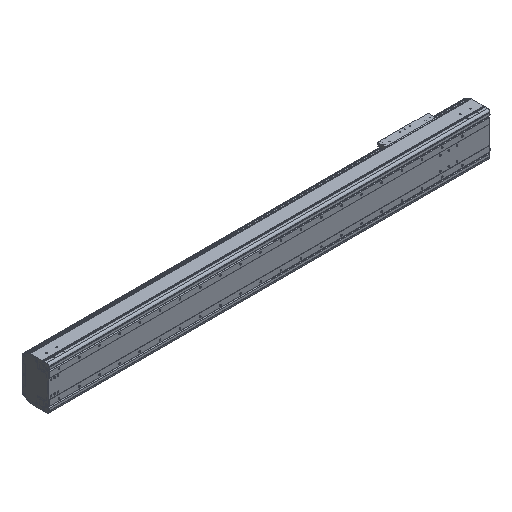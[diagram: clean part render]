
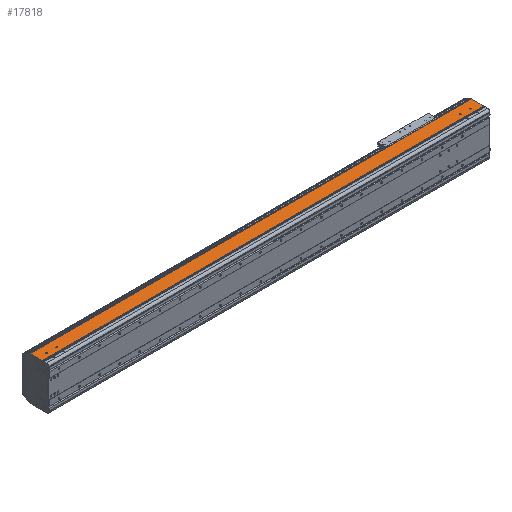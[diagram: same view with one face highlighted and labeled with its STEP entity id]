
A CAD part, isometric view. The second image highlights one B-rep face of the part: STEP entity #17818.
In plain terms, the highlighted planar face has unit normal (0, 0, 1).
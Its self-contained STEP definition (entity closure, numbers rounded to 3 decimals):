
#681=DIRECTION('',(1.,0.,0.));
#682=VECTOR('',#681,2.);
#683=CARTESIAN_POINT('',(-2186.,34.65,107.));
#684=LINE('',#683,#682);
#685=CARTESIAN_POINT('',(-42.,54.,107.));
#686=DIRECTION('',(0.,0.,-1.));
#687=DIRECTION('',(1.,0.,0.));
#688=AXIS2_PLACEMENT_3D('',#685,#686,#687);
#690=CARTESIAN_POINT('',(-42.,54.,107.));
#691=DIRECTION('',(0.,0.,-1.));
#692=DIRECTION('',(-1.,0.,0.));
#693=AXIS2_PLACEMENT_3D('',#690,#691,#692);
#695=CARTESIAN_POINT('',(-92.,54.,107.));
#696=DIRECTION('',(0.,0.,-1.));
#697=DIRECTION('',(1.,0.,0.));
#698=AXIS2_PLACEMENT_3D('',#695,#696,#697);
#700=CARTESIAN_POINT('',(-92.,54.,107.));
#701=DIRECTION('',(0.,0.,-1.));
#702=DIRECTION('',(-1.,0.,0.));
#703=AXIS2_PLACEMENT_3D('',#700,#701,#702);
#705=CARTESIAN_POINT('',(-2144.,54.,107.));
#706=DIRECTION('',(0.,0.,-1.));
#707=DIRECTION('',(1.,0.,0.));
#708=AXIS2_PLACEMENT_3D('',#705,#706,#707);
#710=CARTESIAN_POINT('',(-2144.,54.,107.));
#711=DIRECTION('',(0.,0.,-1.));
#712=DIRECTION('',(-1.,0.,0.));
#713=AXIS2_PLACEMENT_3D('',#710,#711,#712);
#715=CARTESIAN_POINT('',(-2094.,54.,107.));
#716=DIRECTION('',(0.,0.,-1.));
#717=DIRECTION('',(1.,0.,0.));
#718=AXIS2_PLACEMENT_3D('',#715,#716,#717);
#720=CARTESIAN_POINT('',(-2094.,54.,107.));
#721=DIRECTION('',(0.,0.,-1.));
#722=DIRECTION('',(-1.,0.,0.));
#723=AXIS2_PLACEMENT_3D('',#720,#721,#722);
#725=DIRECTION('',(0.,-1.,0.));
#726=VECTOR('',#725,2.55);
#727=CARTESIAN_POINT('',(-2184.,34.65,107.));
#728=LINE('',#727,#726);
#729=DIRECTION('',(0.,-1.,0.));
#730=VECTOR('',#729,58.85);
#731=CARTESIAN_POINT('',(-2186.,93.5,107.));
#732=LINE('',#731,#730);
#733=DIRECTION('',(0.,1.,0.));
#734=VECTOR('',#733,58.85);
#735=CARTESIAN_POINT('',(2.,34.65,107.));
#736=LINE('',#735,#734);
#737=DIRECTION('',(0.,1.,0.));
#738=VECTOR('',#737,2.55);
#739=CARTESIAN_POINT('',(0.,32.1,107.));
#740=LINE('',#739,#738);
#845=DIRECTION('',(-1.,0.,0.));
#846=VECTOR('',#845,2188.);
#847=CARTESIAN_POINT('',(2.,93.5,107.));
#848=LINE('',#847,#846);
#3558=DIRECTION('',(1.,0.,0.));
#3559=VECTOR('',#3558,2184.);
#3560=CARTESIAN_POINT('',(-2184.,32.1,107.));
#3561=LINE('',#3560,#3559);
#3566=DIRECTION('',(1.,0.,0.));
#3567=VECTOR('',#3566,2.);
#3568=CARTESIAN_POINT('',(0.,34.65,107.));
#3569=LINE('',#3568,#3567);
#13479=CARTESIAN_POINT('',(-2186.,34.65,107.));
#13480=VERTEX_POINT('',#13479);
#13481=CARTESIAN_POINT('',(-2186.,93.5,107.));
#13482=VERTEX_POINT('',#13481);
#13703=CARTESIAN_POINT('',(-2184.,32.1,107.));
#13704=VERTEX_POINT('',#13703);
#13775=CARTESIAN_POINT('',(0.,32.1,107.));
#13776=VERTEX_POINT('',#13775);
#14341=CARTESIAN_POINT('',(-39.5,54.,107.));
#14342=CARTESIAN_POINT('',(-44.5,54.,107.));
#14343=VERTEX_POINT('',#14341);
#14344=VERTEX_POINT('',#14342);
#14345=CARTESIAN_POINT('',(-89.5,54.,107.));
#14346=CARTESIAN_POINT('',(-94.5,54.,107.));
#14347=VERTEX_POINT('',#14345);
#14348=VERTEX_POINT('',#14346);
#14349=CARTESIAN_POINT('',(-2141.5,54.,107.));
#14350=CARTESIAN_POINT('',(-2146.5,54.,107.));
#14351=VERTEX_POINT('',#14349);
#14352=VERTEX_POINT('',#14350);
#14353=CARTESIAN_POINT('',(-2091.5,54.,107.));
#14354=CARTESIAN_POINT('',(-2096.5,54.,107.));
#14355=VERTEX_POINT('',#14353);
#14356=VERTEX_POINT('',#14354);
#15671=CARTESIAN_POINT('',(2.,34.65,107.));
#15672=VERTEX_POINT('',#15671);
#15673=CARTESIAN_POINT('',(2.,93.5,107.));
#15674=VERTEX_POINT('',#15673);
#15895=CARTESIAN_POINT('',(0.,34.65,107.));
#15896=VERTEX_POINT('',#15895);
#16207=CARTESIAN_POINT('',(-2184.,34.65,107.));
#16208=VERTEX_POINT('',#16207);
#17774=CARTESIAN_POINT('',(-1092.,62.8,107.));
#17775=DIRECTION('',(0.,0.,1.));
#17776=DIRECTION('',(0.,-1.,0.));
#17777=AXIS2_PLACEMENT_3D('',#17774,#17775,#17776);
#17778=PLANE('',#17777);
#17779=ORIENTED_EDGE('',*,*,#17137,.F.);
#17780=ORIENTED_EDGE('',*,*,#17769,.F.);
#17781=ORIENTED_EDGE('',*,*,#17011,.F.);
#17783=ORIENTED_EDGE('',*,*,#17782,.F.);
#17785=ORIENTED_EDGE('',*,*,#17784,.F.);
#17787=ORIENTED_EDGE('',*,*,#17786,.F.);
#17789=ORIENTED_EDGE('',*,*,#17788,.F.);
#17791=ORIENTED_EDGE('',*,*,#17790,.F.);
#17792=EDGE_LOOP('',(#17779,#17780,#17781,#17783,#17785,#17787,#17789,#17791));
#17793=FACE_OUTER_BOUND('',#17792,.F.);
#17795=ORIENTED_EDGE('',*,*,#17794,.F.);
#17797=ORIENTED_EDGE('',*,*,#17796,.F.);
#17798=EDGE_LOOP('',(#17795,#17797));
#17799=FACE_BOUND('',#17798,.F.);
#17801=ORIENTED_EDGE('',*,*,#17800,.F.);
#17803=ORIENTED_EDGE('',*,*,#17802,.F.);
#17804=EDGE_LOOP('',(#17801,#17803));
#17805=FACE_BOUND('',#17804,.F.);
#17807=ORIENTED_EDGE('',*,*,#17806,.F.);
#17809=ORIENTED_EDGE('',*,*,#17808,.F.);
#17810=EDGE_LOOP('',(#17807,#17809));
#17811=FACE_BOUND('',#17810,.F.);
#17813=ORIENTED_EDGE('',*,*,#17812,.F.);
#17815=ORIENTED_EDGE('',*,*,#17814,.F.);
#17816=EDGE_LOOP('',(#17813,#17815));
#17817=FACE_BOUND('',#17816,.F.);
#17818=ADVANCED_FACE('',(#17793,#17799,#17805,#17811,#17817),#17778,.T.);
#689=CIRCLE('',#688,2.5);
#694=CIRCLE('',#693,2.5);
#699=CIRCLE('',#698,2.5);
#704=CIRCLE('',#703,2.5);
#709=CIRCLE('',#708,2.5);
#714=CIRCLE('',#713,2.5);
#719=CIRCLE('',#718,2.5);
#724=CIRCLE('',#723,2.5);
#17011=EDGE_CURVE('',#13482,#13480,#732,.T.);
#17137=EDGE_CURVE('',#16208,#13704,#728,.T.);
#17769=EDGE_CURVE('',#13480,#16208,#684,.T.);
#17782=EDGE_CURVE('',#15674,#13482,#848,.T.);
#17784=EDGE_CURVE('',#15672,#15674,#736,.T.);
#17786=EDGE_CURVE('',#15896,#15672,#3569,.T.);
#17788=EDGE_CURVE('',#13776,#15896,#740,.T.);
#17790=EDGE_CURVE('',#13704,#13776,#3561,.T.);
#17794=EDGE_CURVE('',#14347,#14348,#699,.T.);
#17796=EDGE_CURVE('',#14348,#14347,#704,.T.);
#17800=EDGE_CURVE('',#14351,#14352,#709,.T.);
#17802=EDGE_CURVE('',#14352,#14351,#714,.T.);
#17806=EDGE_CURVE('',#14355,#14356,#719,.T.);
#17808=EDGE_CURVE('',#14356,#14355,#724,.T.);
#17812=EDGE_CURVE('',#14343,#14344,#689,.T.);
#17814=EDGE_CURVE('',#14344,#14343,#694,.T.);
